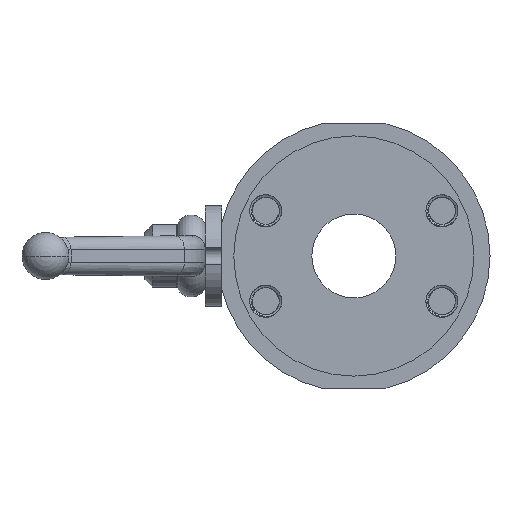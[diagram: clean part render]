
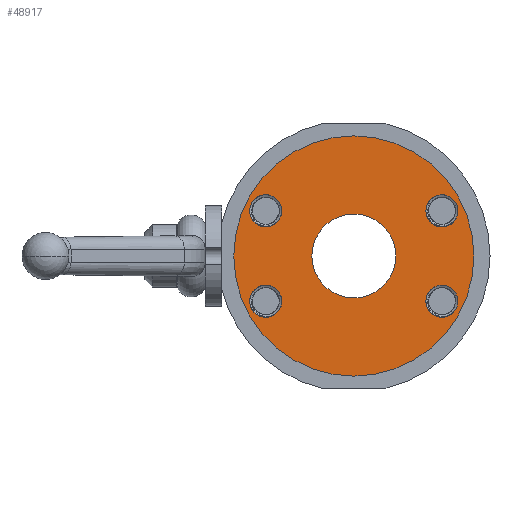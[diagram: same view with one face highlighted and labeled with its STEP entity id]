
A CAD part, left-side view. The second image highlights one B-rep face of the part: STEP entity #48917.
In plain terms, the highlighted planar face has unit normal (-1, 0, 0).
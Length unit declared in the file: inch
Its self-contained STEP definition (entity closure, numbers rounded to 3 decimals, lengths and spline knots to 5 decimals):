
#39866=CARTESIAN_POINT('',(-3.22534,0.,0.));
#39867=DIRECTION('',(-1.,0.,0.));
#39868=DIRECTION('',(0.,1.,0.));
#39869=AXIS2_PLACEMENT_3D('',#39866,#39867,#39868);
#39881=CARTESIAN_POINT('',(-3.22534,0.,0.));
#39882=DIRECTION('',(1.,0.,0.));
#39883=DIRECTION('',(0.,1.,0.));
#39884=AXIS2_PLACEMENT_3D('',#39881,#39882,#39883);
#39896=CARTESIAN_POINT('',(-3.22534,0.,0.));
#39897=DIRECTION('',(-1.,0.,0.));
#39898=DIRECTION('',(0.,1.,0.));
#39899=AXIS2_PLACEMENT_3D('',#39896,#39897,#39898);
#39904=CARTESIAN_POINT('',(-3.22534,0.,0.));
#39905=DIRECTION('',(1.,0.,0.));
#39906=DIRECTION('',(0.,1.,0.));
#39907=AXIS2_PLACEMENT_3D('',#39904,#39905,#39906);
#39912=CARTESIAN_POINT('',(-3.22534,1.375,-0.705));
#39913=DIRECTION('',(-1.,0.,0.));
#39914=DIRECTION('',(0.,-0.924,-0.383));
#39915=AXIS2_PLACEMENT_3D('',#39912,#39913,#39914);
#39920=CARTESIAN_POINT('',(-3.22534,1.375,0.705));
#39921=DIRECTION('',(-1.,0.,0.));
#39922=DIRECTION('',(0.,-0.924,-0.383));
#39923=AXIS2_PLACEMENT_3D('',#39920,#39921,#39922);
#39928=CARTESIAN_POINT('',(-3.22534,-1.375,-0.705));
#39929=DIRECTION('',(-1.,0.,0.));
#39930=DIRECTION('',(0.,-0.924,-0.383));
#39931=AXIS2_PLACEMENT_3D('',#39928,#39929,#39930);
#39936=CARTESIAN_POINT('',(-3.22534,-1.375,0.705));
#39937=DIRECTION('',(-1.,0.,0.));
#39938=DIRECTION('',(0.,-0.924,-0.383));
#39939=AXIS2_PLACEMENT_3D('',#39936,#39937,#39938);
#40606=CARTESIAN_POINT('',(-3.22534,1.375,-0.705));
#40607=DIRECTION('',(1.,0.,0.));
#40608=DIRECTION('',(0.,-0.924,-0.383));
#40609=AXIS2_PLACEMENT_3D('',#40606,#40607,#40608);
#42020=CARTESIAN_POINT('',(-3.22534,1.14403,-0.80067));
#42625=CARTESIAN_POINT('',(-3.22534,1.375,0.705));
#42626=DIRECTION('',(1.,0.,0.));
#42627=DIRECTION('',(0.,-0.924,-0.383));
#42628=AXIS2_PLACEMENT_3D('',#42625,#42626,#42627);
#44644=CARTESIAN_POINT('',(-3.22534,-1.375,-0.705));
#44645=DIRECTION('',(1.,0.,0.));
#44646=DIRECTION('',(0.,-0.924,-0.383));
#44647=AXIS2_PLACEMENT_3D('',#44644,#44645,#44646);
#46058=CARTESIAN_POINT('',(-3.22534,-1.60597,-0.80067));
#46663=CARTESIAN_POINT('',(-3.22534,-1.375,0.705));
#46664=DIRECTION('',(1.,0.,0.));
#46665=DIRECTION('',(0.,-0.924,-0.383));
#46666=AXIS2_PLACEMENT_3D('',#46663,#46664,#46665);
#48077=CARTESIAN_POINT('',(-3.22534,-1.60597,0.60933));
#48328=CARTESIAN_POINT('',(-3.22534,0.655,0.));
#48330=VERTEX_POINT('',#48328);
#48332=CARTESIAN_POINT('',(-3.22534,-0.655,0.));
#48334=VERTEX_POINT('',#48332);
#48337=CARTESIAN_POINT('',(-3.22534,1.875,0.));
#48339=VERTEX_POINT('',#48337);
#48341=CARTESIAN_POINT('',(-3.22534,-1.875,0.));
#48343=VERTEX_POINT('',#48341);
#48414=VERTEX_POINT('',#42020);
#48415=CARTESIAN_POINT('',(-3.22534,1.14403,-0.60933));
#48417=VERTEX_POINT('',#48415);
#48623=CARTESIAN_POINT('',(-3.22534,1.14403,0.60933));
#48624=CARTESIAN_POINT('',(-3.22534,1.14403,0.80067));
#48625=VERTEX_POINT('',#48623);
#48626=VERTEX_POINT('',#48624);
#48652=VERTEX_POINT('',#46058);
#48653=CARTESIAN_POINT('',(-3.22534,-1.60597,-0.60933));
#48655=VERTEX_POINT('',#48653);
#48659=VERTEX_POINT('',#48077);
#48660=CARTESIAN_POINT('',(-3.22534,-1.60597,0.80067));
#48662=VERTEX_POINT('',#48660);
#48878=CARTESIAN_POINT('',(-3.22534,0.,0.));
#48879=DIRECTION('',(-1.,0.,0.));
#48880=DIRECTION('',(0.,1.,0.));
#48881=AXIS2_PLACEMENT_3D('',#48878,#48879,#48880);
#48882=PLANE('',#48881);
#48884=ORIENTED_EDGE('',*,*,#48883,.F.);
#48886=ORIENTED_EDGE('',*,*,#48885,.T.);
#48887=EDGE_LOOP('',(#48884,#48886));
#48888=FACE_OUTER_BOUND('',#48887,.F.);
#48889=ORIENTED_EDGE('',*,*,#48871,.F.);
#48890=ORIENTED_EDGE('',*,*,#48860,.T.);
#48891=EDGE_LOOP('',(#48889,#48890));
#48892=FACE_BOUND('',#48891,.F.);
#48894=ORIENTED_EDGE('',*,*,#48893,.T.);
#48896=ORIENTED_EDGE('',*,*,#48895,.F.);
#48897=EDGE_LOOP('',(#48894,#48896));
#48898=FACE_BOUND('',#48897,.F.);
#48900=ORIENTED_EDGE('',*,*,#48899,.T.);
#48902=ORIENTED_EDGE('',*,*,#48901,.F.);
#48903=EDGE_LOOP('',(#48900,#48902));
#48904=FACE_BOUND('',#48903,.F.);
#48906=ORIENTED_EDGE('',*,*,#48905,.T.);
#48908=ORIENTED_EDGE('',*,*,#48907,.F.);
#48909=EDGE_LOOP('',(#48906,#48908));
#48910=FACE_BOUND('',#48909,.F.);
#48912=ORIENTED_EDGE('',*,*,#48911,.T.);
#48914=ORIENTED_EDGE('',*,*,#48913,.F.);
#48915=EDGE_LOOP('',(#48912,#48914));
#48916=FACE_BOUND('',#48915,.F.);
#39870=CIRCLE('',#39869,0.655);
#39885=CIRCLE('',#39884,0.655);
#39900=CIRCLE('',#39899,1.875);
#39908=CIRCLE('',#39907,1.875);
#39916=CIRCLE('',#39915,0.25);
#39924=CIRCLE('',#39923,0.25);
#39932=CIRCLE('',#39931,0.25);
#39940=CIRCLE('',#39939,0.25);
#40610=CIRCLE('',#40609,0.25);
#42629=CIRCLE('',#42628,0.25);
#44648=CIRCLE('',#44647,0.25);
#46667=CIRCLE('',#46666,0.25);
#48860=EDGE_CURVE('',#48330,#48334,#39870,.T.);
#48871=EDGE_CURVE('',#48330,#48334,#39885,.T.);
#48883=EDGE_CURVE('',#48339,#48343,#39900,.T.);
#48885=EDGE_CURVE('',#48339,#48343,#39908,.T.);
#48893=EDGE_CURVE('',#48414,#48417,#39916,.T.);
#48895=EDGE_CURVE('',#48414,#48417,#40610,.T.);
#48899=EDGE_CURVE('',#48625,#48626,#39924,.T.);
#48901=EDGE_CURVE('',#48625,#48626,#42629,.T.);
#48905=EDGE_CURVE('',#48652,#48655,#39932,.T.);
#48907=EDGE_CURVE('',#48652,#48655,#44648,.T.);
#48911=EDGE_CURVE('',#48659,#48662,#39940,.T.);
#48913=EDGE_CURVE('',#48659,#48662,#46667,.T.);
#48917=ADVANCED_FACE('',(#48888,#48892,#48898,#48904,#48910,#48916),#48882,.T.);
